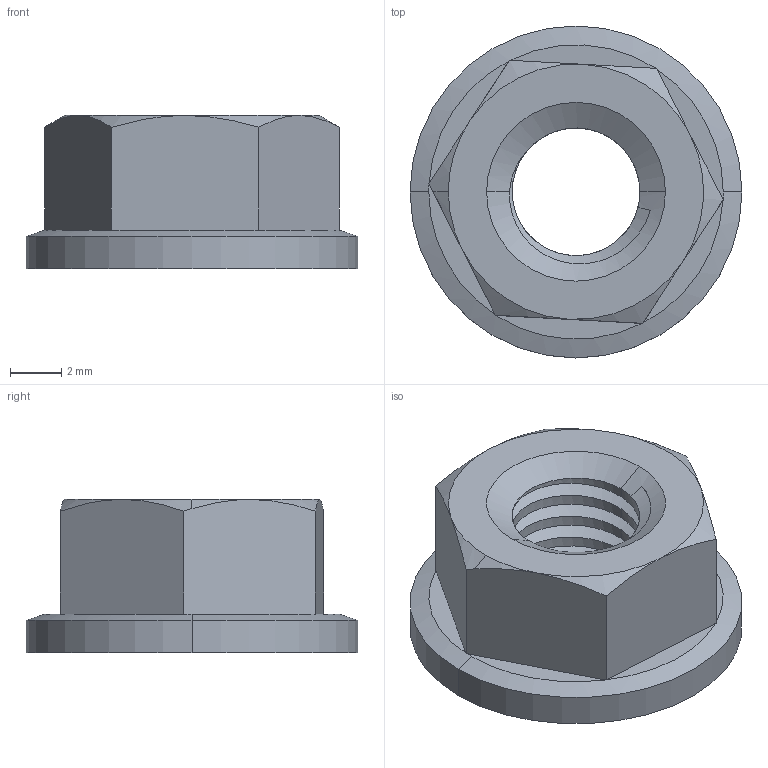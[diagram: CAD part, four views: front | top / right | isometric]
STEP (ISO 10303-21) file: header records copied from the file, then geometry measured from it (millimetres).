
FILE_DESCRIPTION (( 'STEP AP203' ), '1' );
FILE_NAME ('123-CE-FN-6.STEP', '2015-07-09T08:55:50', ( '' ), ( '' ), 'SwSTEP 2.0', 'SolidWorks 2013', '' );
FILE_SCHEMA (( 'CONFIG_CONTROL_DESIGN' ));
Length unit declared in the file: millimetre
Products named in the file (1): 123-CE-FN-6
Bounding box: 13 x 13 x 6 mm (x, y, z)
Volume: 444.7 mm3; surface area: 565.9 mm2
Topology: 1 solids, 1 shells, 48 faces, 117 edges, 71 vertices
Faces by surface type: cone 20, plane 14, cylinder 12, bspline 2
Entity records: 2331 total; most frequent: CARTESIAN_POINT 1239, ORIENTED_EDGE 234, DIRECTION 189, EDGE_CURVE 117, AXIS2_PLACEMENT_3D 79, VERTEX_POINT 71, EDGE_LOOP 50, FACE_OUTER_BOUND 48
